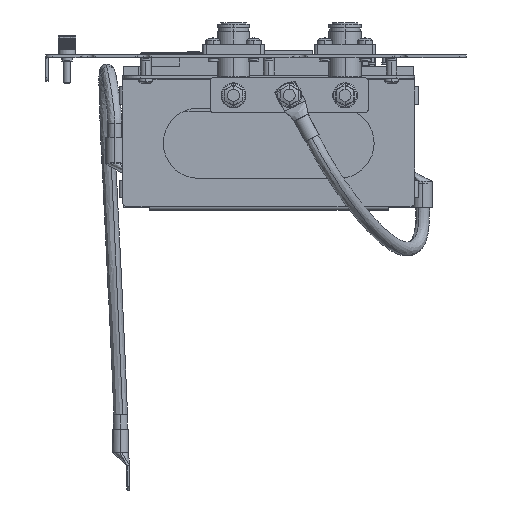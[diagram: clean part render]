
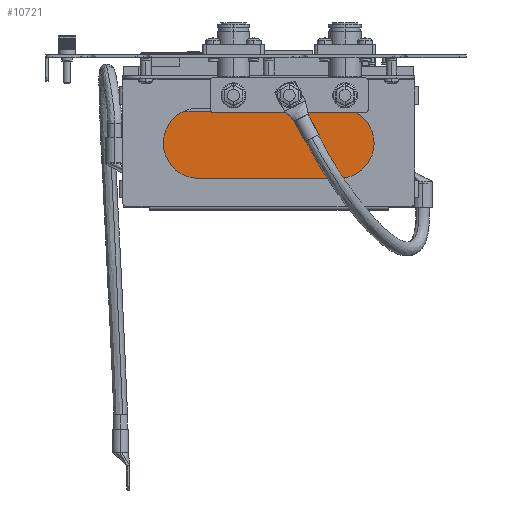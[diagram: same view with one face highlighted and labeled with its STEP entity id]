
A CAD part, left-side view. The second image highlights one B-rep face of the part: STEP entity #10721.
In plain terms, the highlighted planar face has unit normal (-1, 0, 0) as drawn and (0, 0, 1) by its records, which use the part's own axes.
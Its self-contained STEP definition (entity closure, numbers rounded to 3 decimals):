
#299 = EDGE_CURVE ( 'NONE', #57285, #58555, #44630, .T. ) ;
#4420 = VERTEX_POINT ( 'NONE', #27494 ) ;
#4457 = CARTESIAN_POINT ( 'NONE',  ( 0., -82.5, 21.2 ) ) ;
#5296 = EDGE_CURVE ( 'NONE', #4420, #57285, #36417, .T. ) ;
#7252 = DIRECTION ( 'NONE',  ( 1., 0., 0. ) ) ;
#8219 = DIRECTION ( 'NONE',  ( -1., 0., 0. ) ) ;
#9230 = EDGE_LOOP ( 'NONE', ( #41599, #50504, #56564, #57148 ) ) ;
#10721 = ADVANCED_FACE ( 'NONE', ( #45842 ), #35959, .F. ) ;
#12869 = LINE ( 'NONE', #4457, #45910 ) ;
#16911 = CARTESIAN_POINT ( 'NONE',  ( -55., 82.5, 21.2 ) ) ;
#20105 = EDGE_CURVE ( 'NONE', #45047, #58555, #12869, .T. ) ;
#22677 = VECTOR ( 'NONE', #7252, 1000. ) ;
#22764 = DIRECTION ( 'NONE',  ( 0., 1., 0. ) ) ;
#22889 = EDGE_CURVE ( 'NONE', #4420, #45047, #30717, .T. ) ;
#25263 = VECTOR ( 'NONE', #35313, 1000. ) ;
#27494 = CARTESIAN_POINT ( 'NONE',  ( -55., -82.5, 21.2 ) ) ;
#30717 = LINE ( 'NONE', #48494, #22677 ) ;
#31602 = DIRECTION ( 'NONE',  ( 0., 1., 0. ) ) ;
#32304 = CARTESIAN_POINT ( 'NONE',  ( -55., -82.5, 21.2 ) ) ;
#35313 = DIRECTION ( 'NONE',  ( 1., 0., 0. ) ) ;
#35959 = PLANE ( 'NONE',  #56262 ) ;
#36417 = LINE ( 'NONE', #54747, #55125 ) ;
#37166 = CARTESIAN_POINT ( 'NONE',  ( -55., 82.5, 21.2 ) ) ;
#41599 = ORIENTED_EDGE ( 'NONE', *, *, #20105, .T. ) ;
#44630 = LINE ( 'NONE', #16911, #25263 ) ;
#45047 = VERTEX_POINT ( 'NONE', #50247 ) ;
#45842 = FACE_OUTER_BOUND ( 'NONE', #9230, .T. ) ;
#45910 = VECTOR ( 'NONE', #22764, 1000. ) ;
#48277 = CARTESIAN_POINT ( 'NONE',  ( 0., 82.5, 21.2 ) ) ;
#48494 = CARTESIAN_POINT ( 'NONE',  ( -55., -82.5, 21.2 ) ) ;
#49734 = DIRECTION ( 'NONE',  ( 0., 0., -1. ) ) ;
#50247 = CARTESIAN_POINT ( 'NONE',  ( 0., -82.5, 21.2 ) ) ;
#50504 = ORIENTED_EDGE ( 'NONE', *, *, #299, .F. ) ;
#54747 = CARTESIAN_POINT ( 'NONE',  ( -55., -82.5, 21.2 ) ) ;
#55125 = VECTOR ( 'NONE', #31602, 1000. ) ;
#56262 = AXIS2_PLACEMENT_3D ( 'NONE', #32304, #49734, #8219 ) ;
#56564 = ORIENTED_EDGE ( 'NONE', *, *, #5296, .F. ) ;
#57148 = ORIENTED_EDGE ( 'NONE', *, *, #22889, .T. ) ;
#57285 = VERTEX_POINT ( 'NONE', #37166 ) ;
#58555 = VERTEX_POINT ( 'NONE', #48277 ) ;
